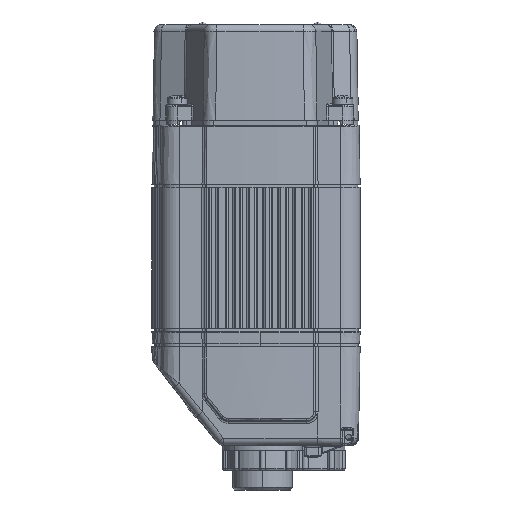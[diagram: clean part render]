
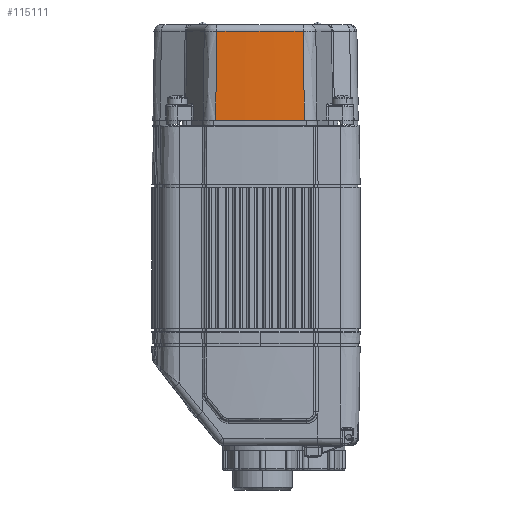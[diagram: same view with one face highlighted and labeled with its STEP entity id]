
A CAD part, left-side view. The second image highlights one B-rep face of the part: STEP entity #115111.
In plain terms, the highlighted conical face has half-angle 1 degrees and reference radius 199.8 mm.
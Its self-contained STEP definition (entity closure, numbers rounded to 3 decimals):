
#1725 = DIRECTION ( 'NONE',  ( 0., 0., -1. ) ) ;
#3296 = ORIENTED_EDGE ( 'NONE', *, *, #93410, .T. ) ;
#5224 = DIRECTION ( 'NONE',  ( 1., 0., 0. ) ) ;
#5530 = DIRECTION ( 'NONE',  ( -1., 0., 0. ) ) ;
#7695 = CARTESIAN_POINT ( 'NONE',  ( -26.436, 8.66, 59.717 ) ) ;
#9429 = CARTESIAN_POINT ( 'NONE',  ( -26.413, 8.642, 61.124 ) ) ;
#12109 = CARTESIAN_POINT ( 'NONE',  ( -26.618, -8.793, 48.999 ) ) ;
#12640 = ORIENTED_EDGE ( 'NONE', *, *, #52006, .T. ) ;
#17108 = CARTESIAN_POINT ( 'NONE',  ( -26.484, 8.695, 56.901 ) ) ;
#19159 = VERTEX_POINT ( 'NONE', #21187 ) ;
#21187 = CARTESIAN_POINT ( 'NONE',  ( -26.712, 8.865, 43.4 ) ) ;
#21558 = CARTESIAN_POINT ( 'NONE',  ( -26.481, -8.691, 57.083 ) ) ;
#24959 = AXIS2_PLACEMENT_3D ( 'NONE', #118883, #62291, #5530 ) ;
#26681 = CARTESIAN_POINT ( 'NONE',  ( -26.636, 8.808, 47.9 ) ) ;
#32225 = EDGE_CURVE ( 'NONE', #62997, #88131, #67348, .T. ) ;
#40303 = CARTESIAN_POINT ( 'NONE',  ( -26.713, -8.864, 43.4 ) ) ;
#48010 = EDGE_LOOP ( 'NONE', ( #115482, #3296, #12640, #122056 ) ) ;
#52006 = EDGE_CURVE ( 'NONE', #105806, #19159, #107695, .T. ) ;
#56800 = CARTESIAN_POINT ( 'NONE',  ( 173.2, 0., 61.124 ) ) ;
#62291 = DIRECTION ( 'NONE',  ( 0., 0., 1. ) ) ;
#62997 = VERTEX_POINT ( 'NONE', #90331 ) ;
#63355 = CIRCLE ( 'NONE', #24959, 200.109 ) ;
#64414 = CARTESIAN_POINT ( 'NONE',  ( -26.413, 8.642, 61.124 ) ) ;
#67348 = B_SPLINE_CURVE_WITH_KNOTS ( 'NONE', 3,
 ( #40303, #96932, #68826, #12109, #78338, #21558, #87806 ),
 .UNSPECIFIED., .F., .F.,
 ( 4, 3, 4 ),
 ( 0., 0.006, 0.018 ),
 .UNSPECIFIED. ) ;
#67994 = DIRECTION ( 'NONE',  ( -1., 0., 0. ) ) ;
#68826 = CARTESIAN_POINT ( 'NONE',  ( -26.649, -8.817, 47.133 ) ) ;
#73897 = CARTESIAN_POINT ( 'NONE',  ( -26.46, 8.677, 58.309 ) ) ;
#78338 = CARTESIAN_POINT ( 'NONE',  ( -26.549, -8.742, 53.041 ) ) ;
#82057 = EDGE_CURVE ( 'NONE', #19159, #62997, #63355, .T. ) ;
#82821 = CARTESIAN_POINT ( 'NONE',  ( -26.413, -8.641, 61.124 ) ) ;
#83004 = CARTESIAN_POINT ( 'NONE',  ( 173.2, 0., 61.1 ) ) ;
#83368 = CARTESIAN_POINT ( 'NONE',  ( -26.56, 8.752, 52.401 ) ) ;
#84830 = FACE_OUTER_BOUND ( 'NONE', #48010, .T. ) ;
#87806 = CARTESIAN_POINT ( 'NONE',  ( -26.413, -8.641, 61.124 ) ) ;
#88131 = VERTEX_POINT ( 'NONE', #82821 ) ;
#89244 = AXIS2_PLACEMENT_3D ( 'NONE', #83004, #90039, #5224 ) ;
#90039 = DIRECTION ( 'NONE',  ( 0., 0., -1. ) ) ;
#90331 = CARTESIAN_POINT ( 'NONE',  ( -26.713, -8.864, 43.4 ) ) ;
#92218 = CONICAL_SURFACE ( 'NONE', #89244, 199.8, 0.017 ) ;
#92907 = CARTESIAN_POINT ( 'NONE',  ( -26.712, 8.865, 43.4 ) ) ;
#93410 = EDGE_CURVE ( 'NONE', #88131, #105806, #109840, .T. ) ;
#96932 = CARTESIAN_POINT ( 'NONE',  ( -26.681, -8.84, 45.266 ) ) ;
#105806 = VERTEX_POINT ( 'NONE', #9429 ) ;
#107695 = B_SPLINE_CURVE_WITH_KNOTS ( 'NONE', 3,
 ( #64414, #7695, #73897, #17108, #83368, #26681, #92907 ),
 .UNSPECIFIED., .F., .F.,
 ( 4, 3, 4 ),
 ( 0.001, 0.006, 0.019 ),
 .UNSPECIFIED. ) ;
#109840 = CIRCLE ( 'NONE', #118622, 199.8 ) ;
#115111 = ADVANCED_FACE ( 'NONE', ( #84830 ), #92218, .T. ) ;
#115482 = ORIENTED_EDGE ( 'NONE', *, *, #32225, .T. ) ;
#118622 = AXIS2_PLACEMENT_3D ( 'NONE', #56800, #1725, #67994 ) ;
#118883 = CARTESIAN_POINT ( 'NONE',  ( 173.2, 0., 43.4 ) ) ;
#122056 = ORIENTED_EDGE ( 'NONE', *, *, #82057, .T. ) ;
